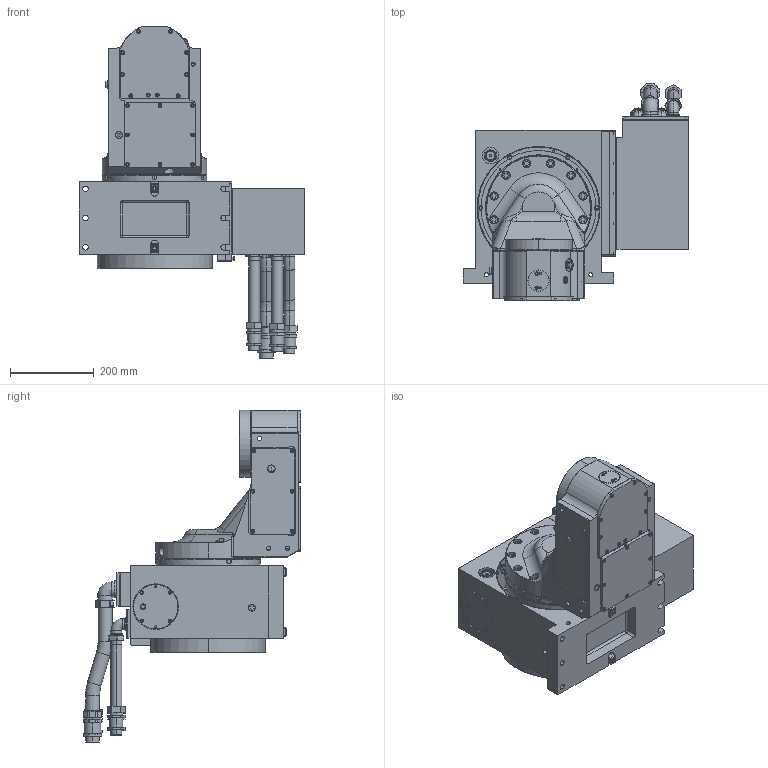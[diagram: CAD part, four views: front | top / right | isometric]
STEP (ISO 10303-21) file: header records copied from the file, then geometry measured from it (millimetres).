
FILE_DESCRIPTION (( 'STEP AP203' ), '1' );
FILE_NAME ('1505950 SATii161A-02.STEP', '2020-12-05T05:56:36', ( '' ), ( '' ), 'SwSTEP 2.0', 'SolidWorks 2019', '' );
FILE_SCHEMA (( 'CONFIG_CONTROL_DESIGN' ));
Length unit declared in the file: millimetre
Products named in the file (1): 1505950 SATii161A-02
Bounding box: 539 x 520.5 x 793.5 mm (x, y, z)
Surface area: 1510077.5 mm2 (no closed solid volume)
Topology: 0 solids, 163 shells, 1780 faces, 5439 edges, 3784 vertices
Faces by surface type: plane 970, cylinder 514, cone 218, torus 48, bspline 22, sphere 8
Entity records: 62255 total; most frequent: CARTESIAN_POINT 13010, DIRECTION 10655, ORIENTED_EDGE 8732, EDGE_CURVE 5431, VERTEX_POINT 3784, AXIS2_PLACEMENT_3D 3605, LINE 3445, VECTOR 3445
